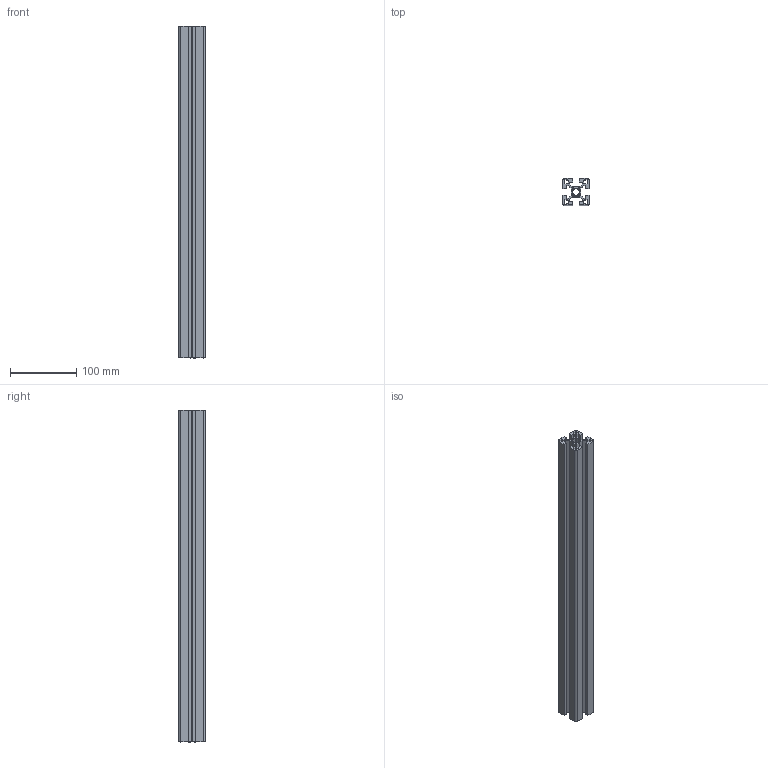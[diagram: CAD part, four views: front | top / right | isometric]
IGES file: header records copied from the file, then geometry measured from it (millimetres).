
Start section: SolidWorks IGES file using analytic representation for surfaces
Global section: file name: C:\Documents and Settings\Administrator\デスクトップ\指定保存後3回目\SolidWorks\SF\SF40・45\Frame\SFF-404.IGS,41HSolidWorks; native system: 2006 by SolidWorks Corporation; preprocessor: SolidWorks 2006 by SolidWorks Corporation; author: Administrator; date: 061213.113126; units: millimetre
Bounding box: 40 x 40 x 500 mm (x, y, z)
Surface area: 228647.5 mm2 (no closed solid volume)
Topology: 0 solids, 0 shells, 139 faces, 1795 edges, 2206 vertices
Faces by surface type: bspline 74, revolution 65
